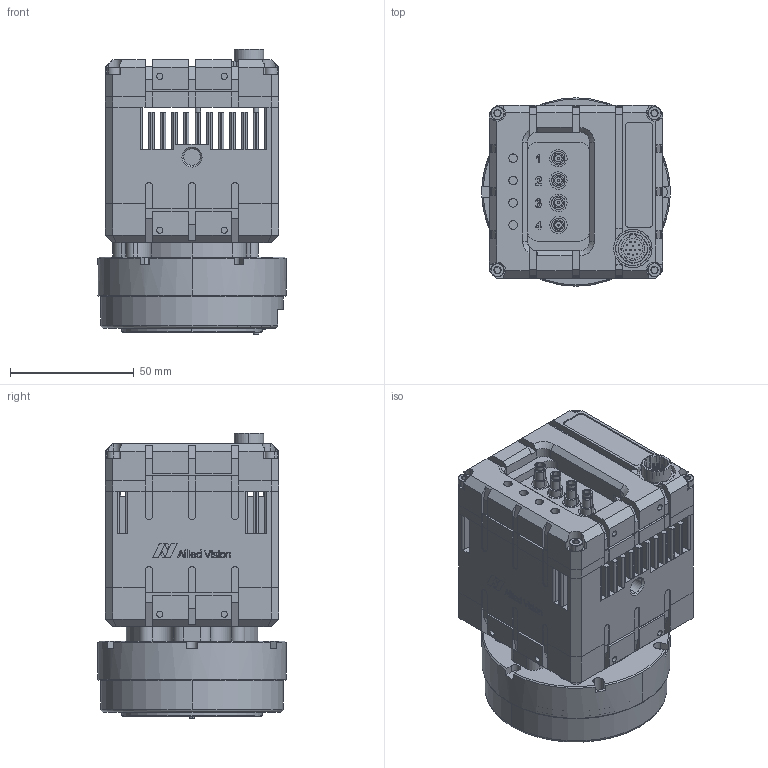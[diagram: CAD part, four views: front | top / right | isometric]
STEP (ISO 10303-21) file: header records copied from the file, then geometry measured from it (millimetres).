
FILE_DESCRIPTION (( 'STEP AP214' ), '1' );
FILE_NAME ('BONITO PYTHON PA FMOUNT MONO.STEP', '2018-05-11T19:48:04', ( '' ), ( '' ), 'SwSTEP 2.0', 'SolidWorks 2017', '' );
FILE_SCHEMA (( 'AUTOMOTIVE_DESIGN' ));
Length unit declared in the file: millimetre
Products named in the file (11): FMOUNT LOCKING KNOB - DEFEATURED; FMOUNT DOWEL PIN - DEFEATURED; PA FMOUNT FRONT - DEFEATURED; BONITO BODY ASSY - PYTHON - DEFEATURED; BONITO PYTHON PA FMOUNT MONO; PA LENS MOUNT BASE - DEFEATURED; NIKON PA FMOUNT FRONT ASSY - DEFEATURED; PA GASKET - DEFEATURED; FMOUNT LOCKING RING - DEFEATURED; FMOUNT MOUNTING SCREW - DEFEATURED; FMOUNT LOCKING PIN - DEFEATURED
Assembly tree (15 placements, depth 3):
  BONITO PYTHON PA FMOUNT MONO
    BONITO BODY ASSY - PYTHON - DEFEATURED
    PA LENS MOUNT BASE - DEFEATURED
    NIKON PA FMOUNT FRONT ASSY - DEFEATURED
      PA FMOUNT FRONT - DEFEATURED
      FMOUNT DOWEL PIN - DEFEATURED
      FMOUNT LOCKING KNOB - DEFEATURED
      FMOUNT LOCKING PIN - DEFEATURED
      FMOUNT LOCKING RING - DEFEATURED
      FMOUNT MOUNTING SCREW - DEFEATURED  x6
      PA GASKET - DEFEATURED
Bounding box: 76.2 x 76.2 x 115.55 mm (x, y, z)
Volume: 343047.9 mm3; surface area: 105319.9 mm2
Topology: 14 solids, 14 shells, 1961 faces, 5115 edges, 3276 vertices
Faces by surface type: plane 1033, cylinder 545, bspline 168, cone 126, torus 62, sphere 27
Entity records: 62605 total; most frequent: CARTESIAN_POINT 17351, ORIENTED_EDGE 9508, DIRECTION 9007, EDGE_CURVE 4754, VERTEX_POINT 3070, LINE 3003, VECTOR 3003, AXIS2_PLACEMENT_3D 3002
